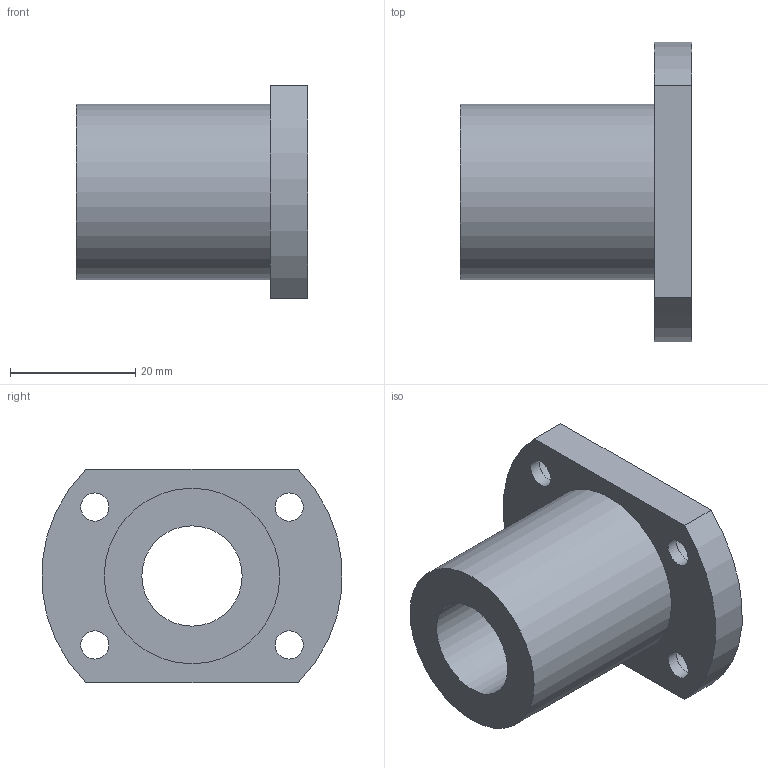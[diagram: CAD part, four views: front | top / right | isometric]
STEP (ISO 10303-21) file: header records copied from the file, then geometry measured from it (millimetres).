
FILE_DESCRIPTION(/* description */ ('Unknown'),/* implementation_level */ '2;1');
FILE_NAME(/* name */ 'LMH16UU',/* time_stamp */ '2025-02-03T14:08:46+08:00',/* author */ ('Unknown'),/* organization */ ('Unknown'),/* preprocessor_version */ 'ST-DEVELOPER v18.102',/* originating_system */ 'Solid Edge',/* authorisation */ 'Unknown');
FILE_SCHEMA (('AUTOMOTIVE_DESIGN {1 0 10303 214 3 1 1}'));
Length unit declared in the file: millimetre
Products named in the file (1): LMH16UU
Bounding box: 37 x 47.82 x 34 mm (x, y, z)
Volume: 19700.3 mm3; surface area: 8376.8 mm2
Topology: 1 solids, 1 shells, 21 faces, 42 edges, 28 vertices
Faces by surface type: cylinder 12, plane 9
Full cylindrical faces by diameter (mm): 4.5 x4, 7.5 x4, 16 x1, 28 x1
Entity records: 560 total; most frequent: DIRECTION 100, CARTESIAN_POINT 82, ORIENTED_EDGE 64, EDGE_LOOP 46, FACE_BOUND 46, AXIS2_PLACEMENT_3D 46, EDGE_CURVE 32, VERTEX_POINT 28
